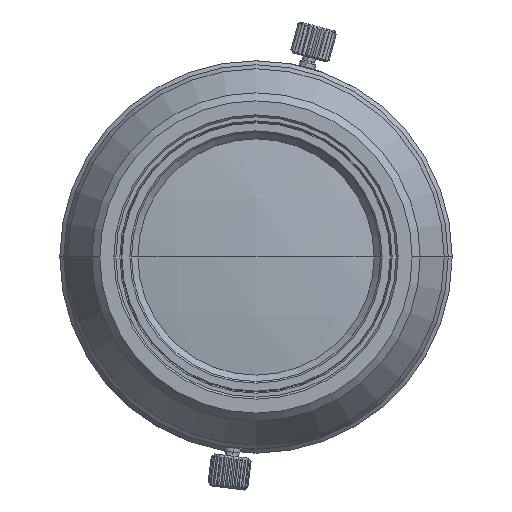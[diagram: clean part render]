
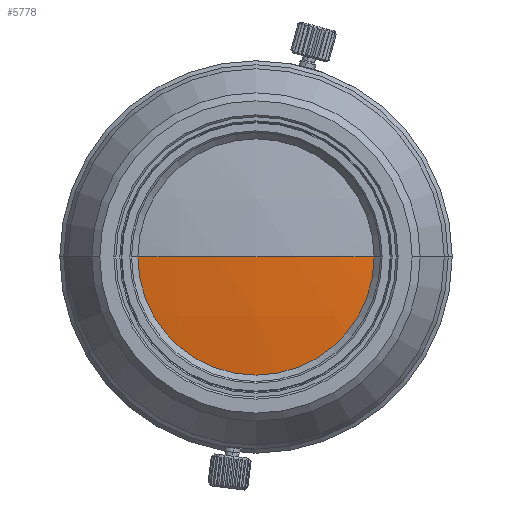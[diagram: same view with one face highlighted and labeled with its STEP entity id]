
A CAD part, left-side view. The second image highlights one B-rep face of the part: STEP entity #5778.
In plain terms, the highlighted spherical face has radius 105 mm.
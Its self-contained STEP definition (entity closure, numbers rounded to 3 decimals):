
#263 = EDGE_LOOP ( 'NONE', ( #7361, #3632, #4585 ) ) ;
#1174 = FACE_OUTER_BOUND ( 'NONE', #263, .T. ) ;
#1600 = CIRCLE ( 'NONE', #5158, 14.75 ) ;
#1878 = DIRECTION ( 'NONE',  ( 0., 1., 0. ) ) ;
#1994 = CARTESIAN_POINT ( 'NONE',  ( -108.959, -14.75, 0. ) ) ;
#2927 = CIRCLE ( 'NONE', #8131, 105. ) ;
#3629 = VERTEX_POINT ( 'NONE', #4364 ) ;
#3632 = ORIENTED_EDGE ( 'NONE', *, *, #7252, .T. ) ;
#3707 = CARTESIAN_POINT ( 'NONE',  ( -108.959, 0., 0. ) ) ;
#4020 = DIRECTION ( 'NONE',  ( 0., 0., 1. ) ) ;
#4116 = AXIS2_PLACEMENT_3D ( 'NONE', #5400, #4020, #1878 ) ;
#4191 = DIRECTION ( 'NONE',  ( 0., -1., 0. ) ) ;
#4230 = CARTESIAN_POINT ( 'NONE',  ( -108.959, 14.75, 0. ) ) ;
#4364 = CARTESIAN_POINT ( 'NONE',  ( -110., 0., 0. ) ) ;
#4585 = ORIENTED_EDGE ( 'NONE', *, *, #7083, .F. ) ;
#4960 = DIRECTION ( 'NONE',  ( 1., 0., 0. ) ) ;
#5019 = CIRCLE ( 'NONE', #7383, 105. ) ;
#5139 = CARTESIAN_POINT ( 'NONE',  ( -5., 0., 0. ) ) ;
#5158 = AXIS2_PLACEMENT_3D ( 'NONE', #3707, #4960, #7763 ) ;
#5185 = DIRECTION ( 'NONE',  ( 0., 0., -1. ) ) ;
#5400 = CARTESIAN_POINT ( 'NONE',  ( -5., 0., 0. ) ) ;
#5778 = ADVANCED_FACE ( 'NONE', ( #1174 ), #6901, .T. ) ;
#5926 = EDGE_CURVE ( 'NONE', #3629, #6690, #2927, .T. ) ;
#6370 = VERTEX_POINT ( 'NONE', #4230 ) ;
#6690 = VERTEX_POINT ( 'NONE', #1994 ) ;
#6901 = SPHERICAL_SURFACE ( 'NONE', #4116, 105. ) ;
#7083 = EDGE_CURVE ( 'NONE', #6690, #6370, #1600, .T. ) ;
#7252 = EDGE_CURVE ( 'NONE', #3629, #6370, #5019, .T. ) ;
#7361 = ORIENTED_EDGE ( 'NONE', *, *, #5926, .F. ) ;
#7383 = AXIS2_PLACEMENT_3D ( 'NONE', #5139, #5185, #7620 ) ;
#7620 = DIRECTION ( 'NONE',  ( -1., 0., 0. ) ) ;
#7732 = DIRECTION ( 'NONE',  ( 0., 0., 1. ) ) ;
#7763 = DIRECTION ( 'NONE',  ( 0., 1., 0. ) ) ;
#7915 = CARTESIAN_POINT ( 'NONE',  ( -5., 0., 0. ) ) ;
#8131 = AXIS2_PLACEMENT_3D ( 'NONE', #7915, #7732, #4191 ) ;
